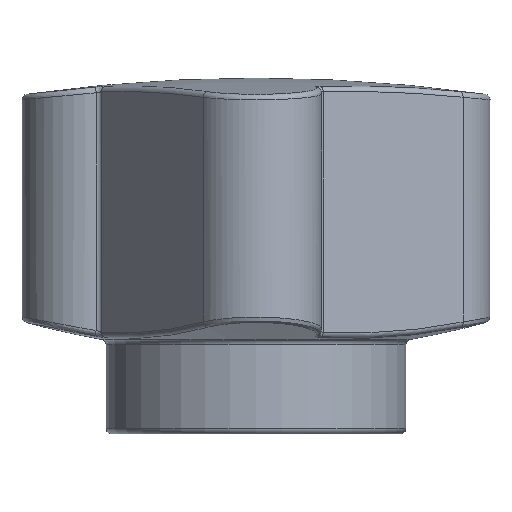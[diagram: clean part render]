
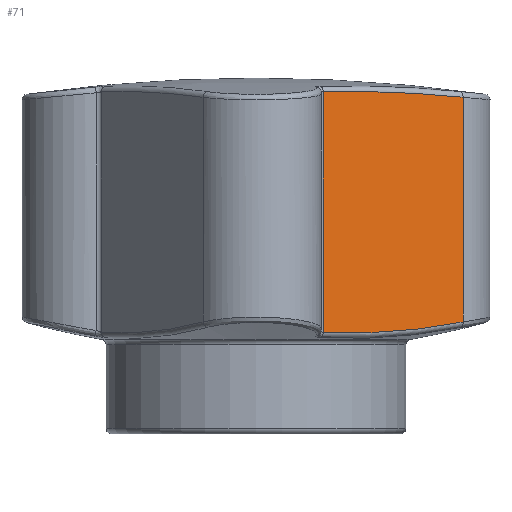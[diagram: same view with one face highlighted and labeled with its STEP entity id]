
A CAD part, front view. The second image highlights one B-rep face of the part: STEP entity #71.
In plain terms, the highlighted planar face has unit normal (0.588, -0.809, 0).
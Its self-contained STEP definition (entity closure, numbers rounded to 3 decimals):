
#37 = EDGE_CURVE ( 'NONE', #69, #227, #371, .T. ) ;
#40 = ORIENTED_EDGE ( 'NONE', *, *, #37, .T. ) ;
#55 = ORIENTED_EDGE ( 'NONE', *, *, #68, .F. ) ;
#61 = EDGE_CURVE ( 'NONE', #219, #66, #402, .T. ) ;
#64 = ORIENTED_EDGE ( 'NONE', *, *, #61, .T. ) ;
#66 = VERTEX_POINT ( 'NONE', #484 ) ;
#68 = EDGE_CURVE ( 'NONE', #69, #66, #399, .T. ) ;
#69 = VERTEX_POINT ( 'NONE', #479 ) ;
#70 = ORIENTED_EDGE ( 'NONE', *, *, #218, .T. ) ;
#71 = ADVANCED_FACE ( 'NONE', ( #438 ), #480, .T. ) ;
#72 = EDGE_LOOP ( 'NONE', ( #70, #64, #55, #40 ) ) ;
#218 = EDGE_CURVE ( 'NONE', #227, #219, #1080, .T. ) ;
#219 = VERTEX_POINT ( 'NONE', #1081 ) ;
#227 = VERTEX_POINT ( 'NONE', #1118 ) ;
#370 = CARTESIAN_POINT ( 'NONE',  ( 5.167, -7.111, -68.5 ) ) ;
#371 = CIRCLE ( 'NONE', #416, 86.786 ) ;
#398 = CARTESIAN_POINT ( 'NONE',  ( 11.057, -2.832, 20. ) ) ;
#399 = LINE ( 'NONE', #398, #476 ) ;
#402 = CIRCLE ( 'NONE', #430, 45.922 ) ;
#414 = DIRECTION ( 'NONE',  ( 0.809, 0.588, 0. ) ) ;
#415 = DIRECTION ( 'NONE',  ( 0.588, -0.809, 0. ) ) ;
#416 = AXIS2_PLACEMENT_3D ( 'NONE', #370, #415, #414 ) ;
#426 = CARTESIAN_POINT ( 'NONE',  ( 11.057, -2.832, 20. ) ) ;
#427 = DIRECTION ( 'NONE',  ( 0.809, 0.588, 0. ) ) ;
#428 = DIRECTION ( 'NONE',  ( 0.588, -0.809, 0. ) ) ;
#429 = CARTESIAN_POINT ( 'NONE',  ( 5.167, -7.111, 51.314 ) ) ;
#430 = AXIS2_PLACEMENT_3D ( 'NONE', #429, #428, #427 ) ;
#438 = FACE_OUTER_BOUND ( 'NONE', #72, .T. ) ;
#470 = DIRECTION ( 'NONE',  ( 0.809, 0.588, 0. ) ) ;
#471 = DIRECTION ( 'NONE',  ( 0.588, -0.809, 0. ) ) ;
#475 = DIRECTION ( 'NONE',  ( 0., 0., -1. ) ) ;
#476 = VECTOR ( 'NONE', #475, 1000. ) ;
#477 = AXIS2_PLACEMENT_3D ( 'NONE', #426, #471, #470 ) ;
#479 = CARTESIAN_POINT ( 'NONE',  ( 11.057, -2.832, 17.98 ) ) ;
#480 = PLANE ( 'NONE',  #477 ) ;
#484 = CARTESIAN_POINT ( 'NONE',  ( 11.057, -2.832, 5.973 ) ) ;
#1080 = LINE ( 'NONE', #1086, #1085 ) ;
#1081 = CARTESIAN_POINT ( 'NONE',  ( 3.591, -8.256, 5.434 ) ) ;
#1084 = DIRECTION ( 'NONE',  ( 0., 0., -1. ) ) ;
#1085 = VECTOR ( 'NONE', #1084, 1000. ) ;
#1086 = CARTESIAN_POINT ( 'NONE',  ( 3.591, -8.256, 5.193 ) ) ;
#1118 = CARTESIAN_POINT ( 'NONE',  ( 3.591, -8.256, 18.264 ) ) ;
